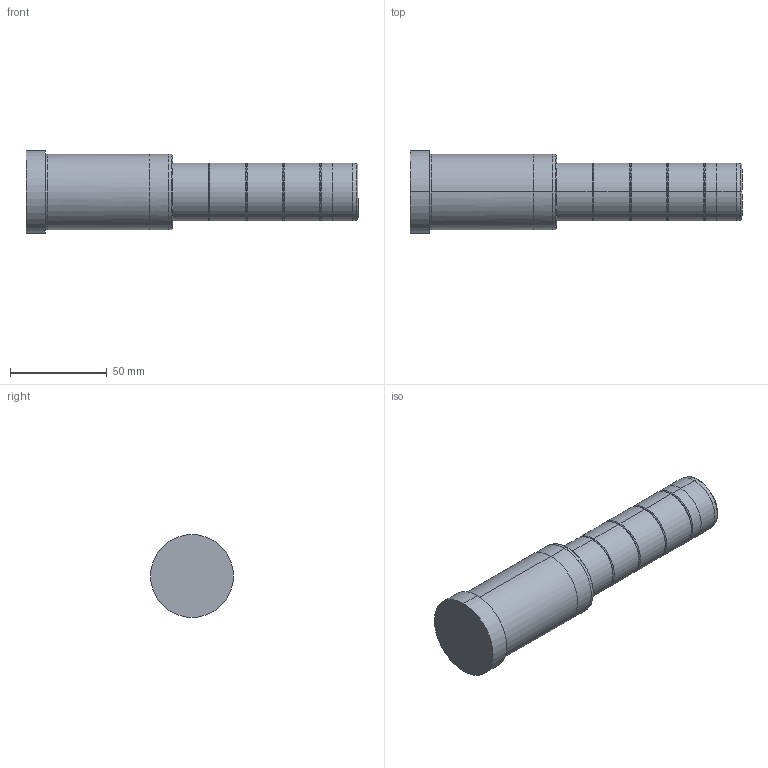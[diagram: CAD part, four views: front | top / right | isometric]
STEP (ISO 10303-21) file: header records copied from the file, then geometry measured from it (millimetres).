
FILE_DESCRIPTION( ( 'STEP AP203' ), '1' );
FILE_NAME( 'D:/Cuma/Düzeltme/D02_30x76x96.step', '2010-03-02T07:18:13', ( ' ' ), ( ' ' ), 'XStep 1.0', ' ', ' ' );
FILE_SCHEMA( ( 'CONFIG_CONTROL_DESIGN' ) );
Length unit declared in the file: metre
Products named in the file (1): 1
Bounding box: 172 x 43 x 43 mm (x, y, z)
Volume: 161044.9 mm3; surface area: 21536.6 mm2
Topology: 1 solids, 1 shells, 52 faces, 109 edges, 63 vertices
Faces by surface type: bspline 21, revolution 16, cylinder 6, cone 4, plane 3, torus 2
Entity records: 1661 total; most frequent: CARTESIAN_POINT 590, ORIENTED_EDGE 218, DIRECTION 204, EDGE_CURVE 109, AXIS2_PLACEMENT_3D 81, CIRCLE 65, VERTEX_POINT 63, EDGE_LOOP 56
